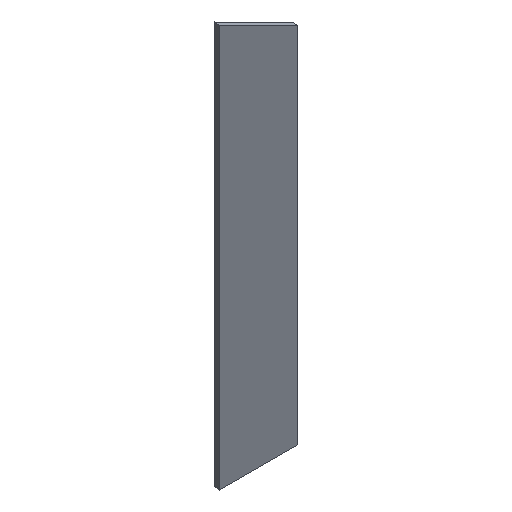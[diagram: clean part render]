
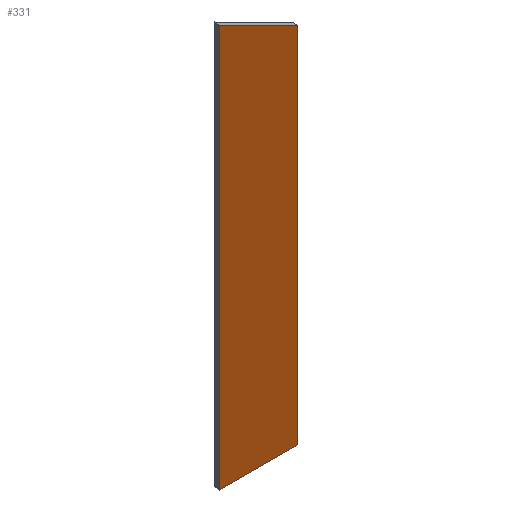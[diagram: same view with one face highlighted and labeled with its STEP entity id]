
A CAD part, isometric view. The second image highlights one B-rep face of the part: STEP entity #331.
In plain terms, the highlighted planar face has unit normal (-0.316, -0.949, 0).
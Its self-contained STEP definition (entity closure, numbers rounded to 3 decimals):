
#22 = VERTEX_POINT('',#23);
#23 = CARTESIAN_POINT('',(0.,230.,-206.));
#32 = PLANE('',#33);
#33 = AXIS2_PLACEMENT_3D('',#34,#35,#36);
#34 = CARTESIAN_POINT('',(0.,230.,-206.));
#35 = DIRECTION('',(1.,0.,0.));
#36 = DIRECTION('',(0.,0.,1.));
#44 = PLANE('',#45);
#45 = AXIS2_PLACEMENT_3D('',#46,#47,#48);
#46 = CARTESIAN_POINT('',(60.,210.,-186.));
#47 = DIRECTION('',(-0.316,0.,0.949));
#48 = DIRECTION('',(-0.905,0.302,-0.302));
#85 = VERTEX_POINT('',#86);
#86 = CARTESIAN_POINT('',(0.,230.,206.));
#100 = PLANE('',#101);
#101 = AXIS2_PLACEMENT_3D('',#102,#103,#104);
#102 = CARTESIAN_POINT('',(0.,230.,206.));
#103 = DIRECTION('',(-0.316,0.,-0.949));
#104 = DIRECTION('',(0.905,-0.302,-0.302));
#112 = EDGE_CURVE('',#22,#85,#113,.T.);
#113 = SURFACE_CURVE('',#114,(#118,#125),.PCURVE_S1.);
#114 = LINE('',#115,#116);
#115 = CARTESIAN_POINT('',(0.,230.,-206.));
#116 = VECTOR('',#117,1.);
#117 = DIRECTION('',(0.,0.,1.));
#118 = PCURVE('',#32,#119);
#119 = DEFINITIONAL_REPRESENTATION('',(#120),#124);
#120 = LINE('',#121,#122);
#121 = CARTESIAN_POINT('',(0.,0.));
#122 = VECTOR('',#123,1.);
#123 = DIRECTION('',(1.,0.));
#124 = ( GEOMETRIC_REPRESENTATION_CONTEXT(2) 
PARAMETRIC_REPRESENTATION_CONTEXT() REPRESENTATION_CONTEXT('2D SPACE',''
  ) );
#125 = PCURVE('',#126,#131);
#126 = PLANE('',#127);
#127 = AXIS2_PLACEMENT_3D('',#128,#129,#130);
#128 = CARTESIAN_POINT('',(28.691,220.436,
    0.));
#129 = DIRECTION('',(0.316,0.949,0.));
#130 = DIRECTION('',(0.949,-0.316,0.));
#131 = DEFINITIONAL_REPRESENTATION('',(#132),#136);
#132 = LINE('',#133,#134);
#133 = CARTESIAN_POINT('',(-30.243,206.));
#134 = VECTOR('',#135,1.);
#135 = DIRECTION('',(0.,-1.));
#136 = ( GEOMETRIC_REPRESENTATION_CONTEXT(2) 
PARAMETRIC_REPRESENTATION_CONTEXT() REPRESENTATION_CONTEXT('2D SPACE',''
  ) );
#166 = VERTEX_POINT('',#167);
#167 = CARTESIAN_POINT('',(60.,210.,186.));
#181 = PLANE('',#182);
#182 = AXIS2_PLACEMENT_3D('',#183,#184,#185);
#183 = CARTESIAN_POINT('',(60.,210.,186.));
#184 = DIRECTION('',(-1.,0.,0.));
#185 = DIRECTION('',(0.,0.,-1.));
#193 = EDGE_CURVE('',#85,#166,#194,.T.);
#194 = SURFACE_CURVE('',#195,(#199,#206),.PCURVE_S1.);
#195 = LINE('',#196,#197);
#196 = CARTESIAN_POINT('',(0.,230.,206.));
#197 = VECTOR('',#198,1.);
#198 = DIRECTION('',(0.905,-0.302,-0.302));
#199 = PCURVE('',#100,#200);
#200 = DEFINITIONAL_REPRESENTATION('',(#201),#205);
#201 = LINE('',#202,#203);
#202 = CARTESIAN_POINT('',(0.,0.));
#203 = VECTOR('',#204,1.);
#204 = DIRECTION('',(1.,0.));
#205 = ( GEOMETRIC_REPRESENTATION_CONTEXT(2) 
PARAMETRIC_REPRESENTATION_CONTEXT() REPRESENTATION_CONTEXT('2D SPACE',''
  ) );
#206 = PCURVE('',#126,#207);
#207 = DEFINITIONAL_REPRESENTATION('',(#208),#212);
#208 = LINE('',#209,#210);
#209 = CARTESIAN_POINT('',(-30.243,-206.));
#210 = VECTOR('',#211,1.);
#211 = DIRECTION('',(0.953,0.302));
#212 = ( GEOMETRIC_REPRESENTATION_CONTEXT(2) 
PARAMETRIC_REPRESENTATION_CONTEXT() REPRESENTATION_CONTEXT('2D SPACE',''
  ) );
#242 = VERTEX_POINT('',#243);
#243 = CARTESIAN_POINT('',(60.,210.,-186.));
#264 = EDGE_CURVE('',#166,#242,#265,.T.);
#265 = SURFACE_CURVE('',#266,(#270,#277),.PCURVE_S1.);
#266 = LINE('',#267,#268);
#267 = CARTESIAN_POINT('',(60.,210.,186.));
#268 = VECTOR('',#269,1.);
#269 = DIRECTION('',(0.,0.,-1.));
#270 = PCURVE('',#181,#271);
#271 = DEFINITIONAL_REPRESENTATION('',(#272),#276);
#272 = LINE('',#273,#274);
#273 = CARTESIAN_POINT('',(0.,-0.));
#274 = VECTOR('',#275,1.);
#275 = DIRECTION('',(1.,0.));
#276 = ( GEOMETRIC_REPRESENTATION_CONTEXT(2) 
PARAMETRIC_REPRESENTATION_CONTEXT() REPRESENTATION_CONTEXT('2D SPACE',''
  ) );
#277 = PCURVE('',#126,#278);
#278 = DEFINITIONAL_REPRESENTATION('',(#279),#283);
#279 = LINE('',#280,#281);
#280 = CARTESIAN_POINT('',(33.003,-186.));
#281 = VECTOR('',#282,1.);
#282 = DIRECTION('',(0.,1.));
#283 = ( GEOMETRIC_REPRESENTATION_CONTEXT(2) 
PARAMETRIC_REPRESENTATION_CONTEXT() REPRESENTATION_CONTEXT('2D SPACE',''
  ) );
#311 = EDGE_CURVE('',#242,#22,#312,.T.);
#312 = SURFACE_CURVE('',#313,(#317,#324),.PCURVE_S1.);
#313 = LINE('',#314,#315);
#314 = CARTESIAN_POINT('',(60.,210.,-186.));
#315 = VECTOR('',#316,1.);
#316 = DIRECTION('',(-0.905,0.302,-0.302));
#317 = PCURVE('',#44,#318);
#318 = DEFINITIONAL_REPRESENTATION('',(#319),#323);
#319 = LINE('',#320,#321);
#320 = CARTESIAN_POINT('',(0.,-0.));
#321 = VECTOR('',#322,1.);
#322 = DIRECTION('',(1.,0.));
#323 = ( GEOMETRIC_REPRESENTATION_CONTEXT(2) 
PARAMETRIC_REPRESENTATION_CONTEXT() REPRESENTATION_CONTEXT('2D SPACE',''
  ) );
#324 = PCURVE('',#126,#325);
#325 = DEFINITIONAL_REPRESENTATION('',(#326),#330);
#326 = LINE('',#327,#328);
#327 = CARTESIAN_POINT('',(33.003,186.));
#328 = VECTOR('',#329,1.);
#329 = DIRECTION('',(-0.953,0.302));
#330 = ( GEOMETRIC_REPRESENTATION_CONTEXT(2) 
PARAMETRIC_REPRESENTATION_CONTEXT() REPRESENTATION_CONTEXT('2D SPACE',''
  ) );
#331 = ADVANCED_FACE('',(#332),#126,.F.);
#332 = FACE_BOUND('',#333,.F.);
#333 = EDGE_LOOP('',(#334,#335,#336,#337));
#334 = ORIENTED_EDGE('',*,*,#112,.T.);
#335 = ORIENTED_EDGE('',*,*,#193,.T.);
#336 = ORIENTED_EDGE('',*,*,#264,.T.);
#337 = ORIENTED_EDGE('',*,*,#311,.T.);
